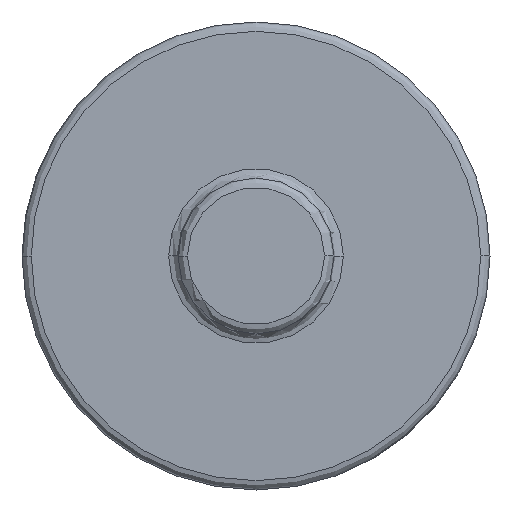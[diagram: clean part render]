
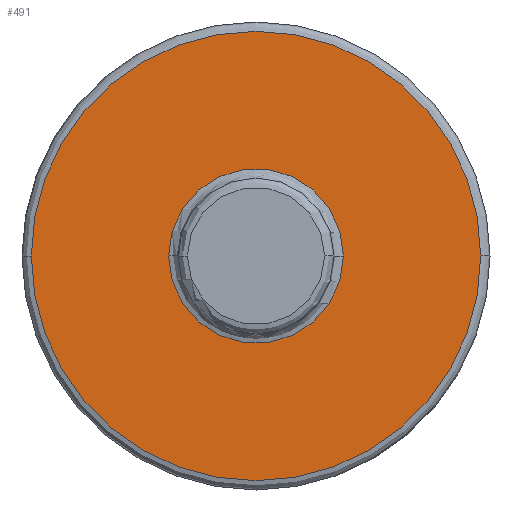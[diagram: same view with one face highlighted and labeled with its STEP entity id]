
A CAD part, front view. The second image highlights one B-rep face of the part: STEP entity #491.
In plain terms, the highlighted planar face has unit normal (0, -1, 0).
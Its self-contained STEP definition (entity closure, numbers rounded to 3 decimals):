
#67=CARTESIAN_POINT('',(0.,-2055.,0.));
#68=DIRECTION('',(0.,-1.,0.));
#69=DIRECTION('',(-1.,0.,0.));
#70=AXIS2_PLACEMENT_3D('',#67,#68,#69);
#72=CARTESIAN_POINT('',(0.,-2055.,0.));
#73=DIRECTION('',(0.,-1.,0.));
#74=DIRECTION('',(1.,0.,0.));
#75=AXIS2_PLACEMENT_3D('',#72,#73,#74);
#77=CARTESIAN_POINT('',(0.,-2055.,0.));
#78=DIRECTION('',(0.,1.,0.));
#79=DIRECTION('',(1.,0.,0.));
#80=AXIS2_PLACEMENT_3D('',#77,#78,#79);
#82=CARTESIAN_POINT('',(0.,-2055.,0.));
#83=DIRECTION('',(0.,1.,0.));
#84=DIRECTION('',(-1.,0.,0.));
#85=AXIS2_PLACEMENT_3D('',#82,#83,#84);
#318=CARTESIAN_POINT('',(-2.8,-2055.,0.));
#319=CARTESIAN_POINT('',(2.8,-2055.,0.));
#320=VERTEX_POINT('',#318);
#321=VERTEX_POINT('',#319);
#338=CARTESIAN_POINT('',(7.2,-2055.,0.));
#339=CARTESIAN_POINT('',(-7.2,-2055.,0.));
#340=VERTEX_POINT('',#338);
#341=VERTEX_POINT('',#339);
#475=CARTESIAN_POINT('',(0.,-2055.,0.));
#476=DIRECTION('',(0.,-1.,0.));
#477=DIRECTION('',(-1.,0.,0.));
#478=AXIS2_PLACEMENT_3D('',#475,#476,#477);
#479=PLANE('',#478);
#481=ORIENTED_EDGE('',*,*,#480,.T.);
#483=ORIENTED_EDGE('',*,*,#482,.T.);
#484=EDGE_LOOP('',(#481,#483));
#485=FACE_OUTER_BOUND('',#484,.F.);
#487=ORIENTED_EDGE('',*,*,#486,.T.);
#488=ORIENTED_EDGE('',*,*,#458,.T.);
#489=EDGE_LOOP('',(#487,#488));
#490=FACE_BOUND('',#489,.F.);
#491=ADVANCED_FACE('',(#485,#490),#479,.T.);
#71=CIRCLE('',#70,2.8);
#76=CIRCLE('',#75,2.8);
#81=CIRCLE('',#80,7.2);
#86=CIRCLE('',#85,7.2);
#458=EDGE_CURVE('',#321,#320,#76,.T.);
#480=EDGE_CURVE('',#340,#341,#81,.T.);
#482=EDGE_CURVE('',#341,#340,#86,.T.);
#486=EDGE_CURVE('',#320,#321,#71,.T.);
